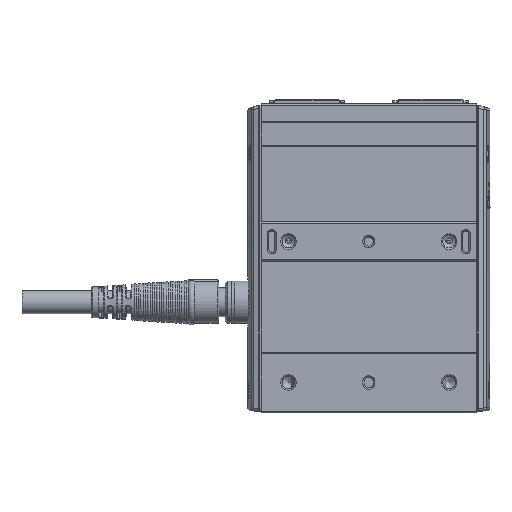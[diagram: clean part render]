
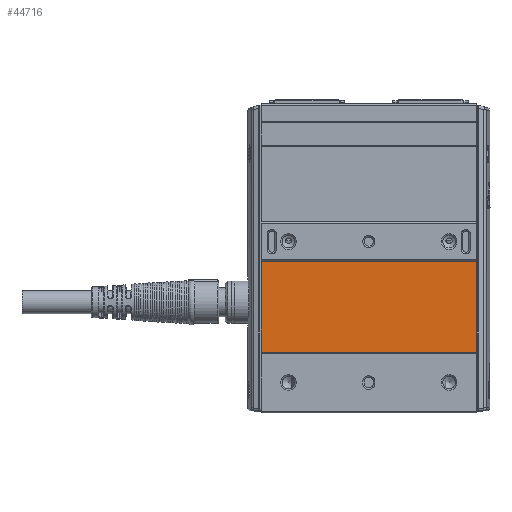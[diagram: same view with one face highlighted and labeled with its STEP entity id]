
A CAD part, left-side view. The second image highlights one B-rep face of the part: STEP entity #44716.
In plain terms, the highlighted planar face has unit normal (-1, 0, 0).
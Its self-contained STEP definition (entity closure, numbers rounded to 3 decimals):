
#4019=PLANE('',#48705);
#6369=FACE_OUTER_BOUND('',#8941,.T.);
#8941=EDGE_LOOP('',(#37346,#37347,#37348,#37349));
#11897=LINE('',#82947,#15218);
#11924=LINE('',#83035,#15245);
#11925=LINE('',#83037,#15246);
#11926=LINE('',#83038,#15247);
#15218=VECTOR('',#58005,1000.);
#15245=VECTOR('',#58076,1000.);
#15246=VECTOR('',#58077,1000.);
#15247=VECTOR('',#58078,1000.);
#21903=VERTEX_POINT('',#82944);
#21904=VERTEX_POINT('',#82946);
#21943=VERTEX_POINT('',#83034);
#21944=VERTEX_POINT('',#83036);
#27345=EDGE_CURVE('',#21904,#21903,#11897,.T.);
#27389=EDGE_CURVE('',#21943,#21903,#11924,.T.);
#27390=EDGE_CURVE('',#21944,#21943,#11925,.T.);
#27391=EDGE_CURVE('',#21944,#21904,#11926,.T.);
#37346=ORIENTED_EDGE('',*,*,#27389,.F.);
#37347=ORIENTED_EDGE('',*,*,#27390,.F.);
#37348=ORIENTED_EDGE('',*,*,#27391,.T.);
#37349=ORIENTED_EDGE('',*,*,#27345,.T.);
#44716=ADVANCED_FACE('',(#6369),#4019,.F.);
#48705=AXIS2_PLACEMENT_3D('',#83033,#58074,#58075);
#58005=DIRECTION('',(0.,0.,-1.));
#58074=DIRECTION('center_axis',(1.,0.,0.));
#58075=DIRECTION('ref_axis',(0.,0.,1.));
#58076=DIRECTION('',(0.,1.,0.));
#58077=DIRECTION('',(0.,0.,-1.));
#58078=DIRECTION('',(0.,1.,0.));
#82944=CARTESIAN_POINT('',(-17.5,35.5,-38.));
#82946=CARTESIAN_POINT('',(-17.5,35.5,-8.));
#82947=CARTESIAN_POINT('',(-17.5,35.5,44.));
#83033=CARTESIAN_POINT('Origin',(-17.5,-35.5,44.));
#83034=CARTESIAN_POINT('',(-17.5,-35.5,-38.));
#83035=CARTESIAN_POINT('',(-17.5,-55.506,-38.));
#83036=CARTESIAN_POINT('',(-17.5,-35.5,-8.));
#83037=CARTESIAN_POINT('',(-17.5,-35.5,44.));
#83038=CARTESIAN_POINT('',(-17.5,-55.506,-8.));
